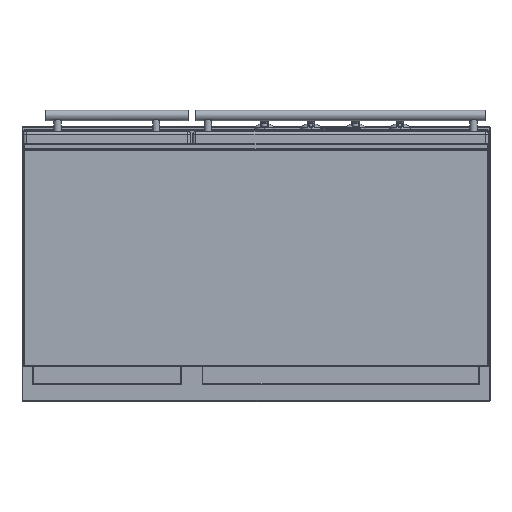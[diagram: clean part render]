
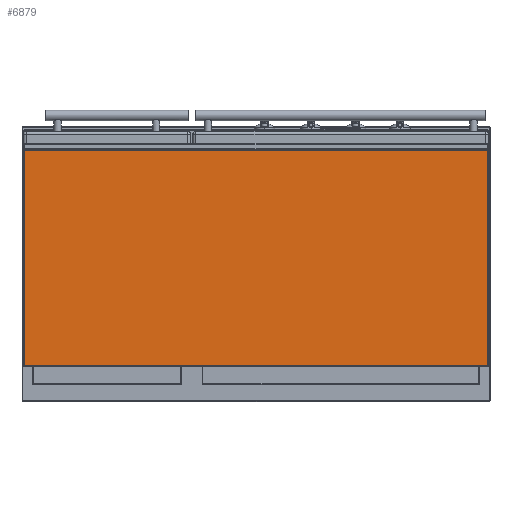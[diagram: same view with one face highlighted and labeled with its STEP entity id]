
A CAD part, front view. The second image highlights one B-rep face of the part: STEP entity #6879.
In plain terms, the highlighted planar face has unit normal (0, -1, 0).
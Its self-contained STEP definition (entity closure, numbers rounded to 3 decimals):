
#6494=DIRECTION('',(0.,0.,1.));
#6495=VECTOR('',#6494,508.);
#6496=CARTESIAN_POINT('',(547.,0.,-254.));
#6497=LINE('',#6496,#6495);
#6498=DIRECTION('',(-1.,0.,0.));
#6499=VECTOR('',#6498,1094.);
#6500=CARTESIAN_POINT('',(547.,0.,-254.));
#6501=LINE('',#6500,#6499);
#6502=DIRECTION('',(0.,0.,-1.));
#6503=VECTOR('',#6502,508.);
#6504=CARTESIAN_POINT('',(-547.,0.,254.));
#6505=LINE('',#6504,#6503);
#6506=DIRECTION('',(-1.,0.,0.));
#6507=VECTOR('',#6506,1094.);
#6508=CARTESIAN_POINT('',(547.,0.,254.));
#6509=LINE('',#6508,#6507);
#6614=CARTESIAN_POINT('',(547.,0.,-254.));
#6615=CARTESIAN_POINT('',(547.,0.,254.));
#6616=VERTEX_POINT('',#6614);
#6617=VERTEX_POINT('',#6615);
#6620=CARTESIAN_POINT('',(-547.,0.,-254.));
#6621=VERTEX_POINT('',#6620);
#6628=CARTESIAN_POINT('',(-547.,0.,254.));
#6629=VERTEX_POINT('',#6628);
#6867=CARTESIAN_POINT('',(-549.,0.,-256.));
#6868=DIRECTION('',(0.,1.,0.));
#6869=DIRECTION('',(0.,0.,1.));
#6870=AXIS2_PLACEMENT_3D('',#6867,#6868,#6869);
#6871=PLANE('',#6870);
#6873=ORIENTED_EDGE('',*,*,#6872,.F.);
#6874=ORIENTED_EDGE('',*,*,#6858,.T.);
#6875=ORIENTED_EDGE('',*,*,#6747,.F.);
#6876=ORIENTED_EDGE('',*,*,#6776,.F.);
#6877=EDGE_LOOP('',(#6873,#6874,#6875,#6876));
#6878=FACE_OUTER_BOUND('',#6877,.F.);
#6747=EDGE_CURVE('',#6629,#6621,#6505,.T.);
#6776=EDGE_CURVE('',#6617,#6629,#6509,.T.);
#6858=EDGE_CURVE('',#6616,#6621,#6501,.T.);
#6872=EDGE_CURVE('',#6616,#6617,#6497,.T.);
#6879=ADVANCED_FACE('',(#6878),#6871,.F.);
